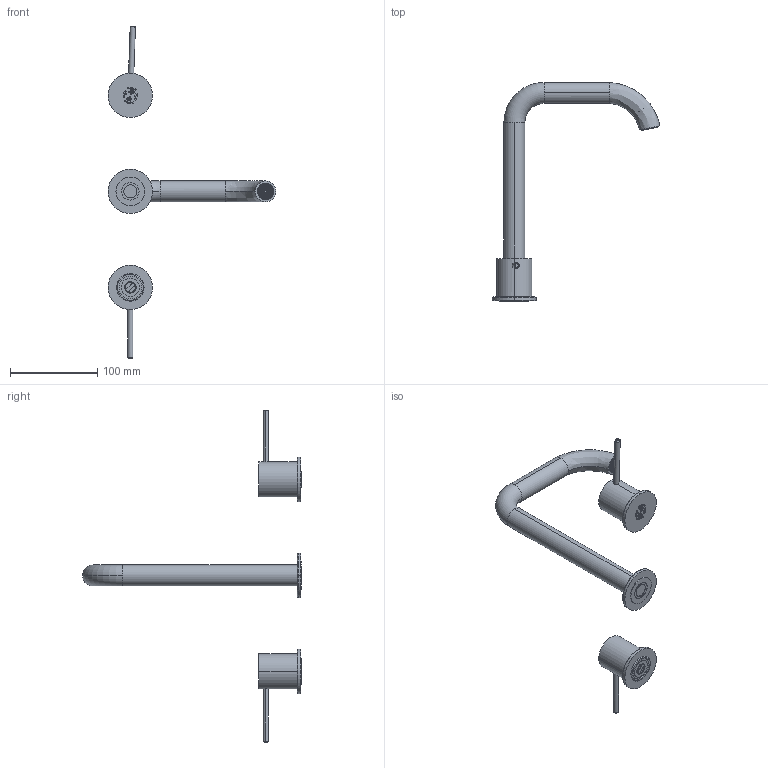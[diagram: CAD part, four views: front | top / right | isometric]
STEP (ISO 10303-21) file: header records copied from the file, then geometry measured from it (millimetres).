
FILE_DESCRIPTION (( 'STEP AP214' ), '1' );
FILE_NAME ('02327810 x architetti.STEP', '2024-09-26T15:07:47', ( '' ), ( '' ), 'SwSTEP 2.0', 'SolidWorks 2020', '' );
FILE_SCHEMA (( 'AUTOMOTIVE_DESIGN' ));
Length unit declared in the file: millimetre
Products named in the file (1): 02327810 x architetti
Bounding box: 192.26 x 250.75 x 380.41 mm (x, y, z)
Volume: 313401.8 mm3; surface area: 62311.4 mm2
Topology: 9 solids, 9 shells, 4118 faces, 11772 edges, 7629 vertices
Faces by surface type: plane 3437, cylinder 481, bspline 134, cone 52, torus 14
Entity records: 192898 total; most frequent: CARTESIAN_POINT 51121, ORIENTED_EDGE 23544, DIRECTION 14718, EDGE_CURVE 11772, VERTEX_POINT 7629, VECTOR 5442, LINE 5442, B_SPLINE_CURVE_WITH_KNOTS 5047
